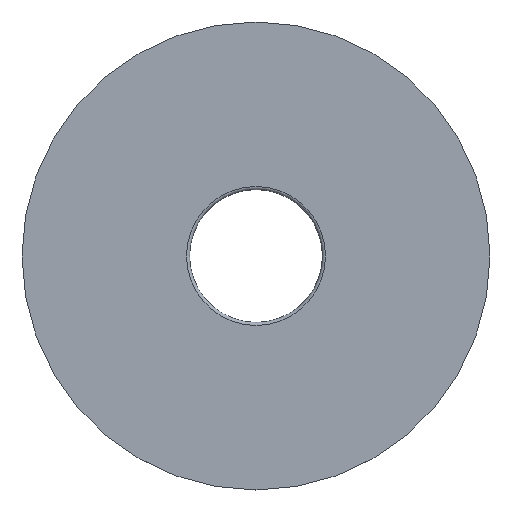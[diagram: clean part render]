
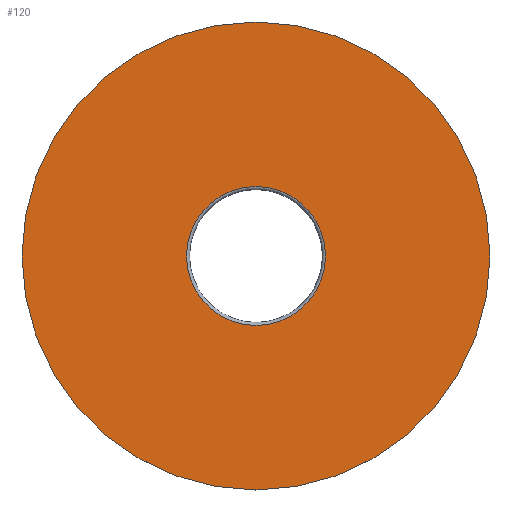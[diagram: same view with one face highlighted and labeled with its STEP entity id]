
A CAD part, top view. The second image highlights one B-rep face of the part: STEP entity #120.
In plain terms, the highlighted planar face has unit normal (0, 0, 1).
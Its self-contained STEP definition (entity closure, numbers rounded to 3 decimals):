
#15=FACE_BOUND('',#36,.T.);
#18=PLANE('',#157);
#26=FACE_OUTER_BOUND('',#35,.T.);
#35=EDGE_LOOP('',(#92));
#36=EDGE_LOOP('',(#93));
#52=CIRCLE('',#156,155.);
#53=CIRCLE('',#158,46.);
#61=VERTEX_POINT('',#221);
#62=VERTEX_POINT('',#225);
#71=EDGE_CURVE('',#61,#61,#52,.T.);
#73=EDGE_CURVE('',#62,#62,#53,.T.);
#92=ORIENTED_EDGE('',*,*,#71,.T.);
#93=ORIENTED_EDGE('',*,*,#73,.F.);
#120=ADVANCED_FACE('',(#26,#15),#18,.T.);
#156=AXIS2_PLACEMENT_3D('',#222,#186,#187);
#157=AXIS2_PLACEMENT_3D('',#224,#189,#190);
#158=AXIS2_PLACEMENT_3D('',#226,#191,#192);
#186=DIRECTION('center_axis',(0.,0.,1.));
#187=DIRECTION('ref_axis',(1.,0.,0.));
#189=DIRECTION('center_axis',(0.,0.,1.));
#190=DIRECTION('ref_axis',(1.,0.,0.));
#191=DIRECTION('center_axis',(0.,0.,1.));
#192=DIRECTION('ref_axis',(1.,0.,0.));
#221=CARTESIAN_POINT('',(-155.,0.,1.));
#222=CARTESIAN_POINT('Origin',(0.,0.,1.));
#224=CARTESIAN_POINT('Origin',(46.,0.,1.));
#225=CARTESIAN_POINT('',(-46.,0.,1.));
#226=CARTESIAN_POINT('Origin',(0.,0.,1.));
